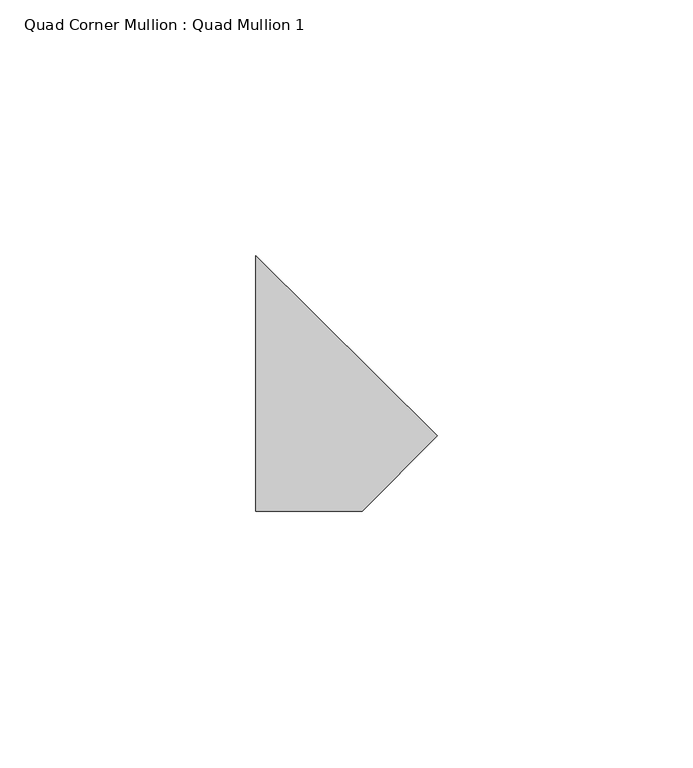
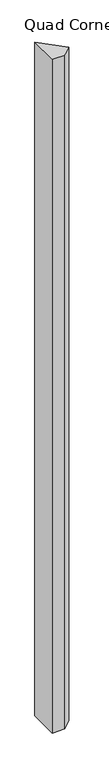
"""IFC4 building model written with IfcOpenShell, lengths in millimetres: member geometry, Quad Corner Mullion : Quad Mullion 1."""

from ifc_helpers import new_model, si_unit, frame, origin, place, context, project, spatial, polyline, outline, extrude, source, transform, mapped, element, save


def quad_corner_mullion_quad_mullion_1_df79e054(model_context):
    return source(origin(), model_context, "Body", "SweptSolid", [
        extrude(outline(polyline([(25.0929703, -10.1955497), (10.4214391, -25.0), (-10.4214391, -25.0), (-10.4214391, 25.0), (25.0929703, -10.1955497)])), frame((0.0, 0.0, -1180.0), z_axis=(0.0, 0.0, 1.0), x_axis=(1.0, 0.0, 0.0)), (0.0, 0.0, 1.0), 1180.0),
    ])


if __name__ == "__main__":
    model = new_model("IFC4")
    model_context = context("Model", 3, world=origin())
    ifc_project = project(units=[si_unit("LENGTHUNIT", "METRE", prefix="MILLI")], contexts=[model_context])
    site = spatial("IfcSite", under=ifc_project)
    building = spatial("IfcBuilding", under=site)
    placement = place(None, origin())
    quad_corner_mullion_quad_mullion_1_shape = quad_corner_mullion_quad_mullion_1_df79e054(model_context)
    element("IfcMember", 1, ObjectType="Quad Corner Mullion : Quad Mullion 1", at=placement, inside=building, context=model_context, shape_type="MappedRepresentation", body=[
        mapped(quad_corner_mullion_quad_mullion_1_shape, transform((0.0, 0.0, 0.0), x_axis=(1.0, 0.0, 0.0), y_axis=(0.0, 1.0, 0.0), z_axis=(0.0, 0.0, 1.0))),
    ])
    save(model, "model.ifc")
